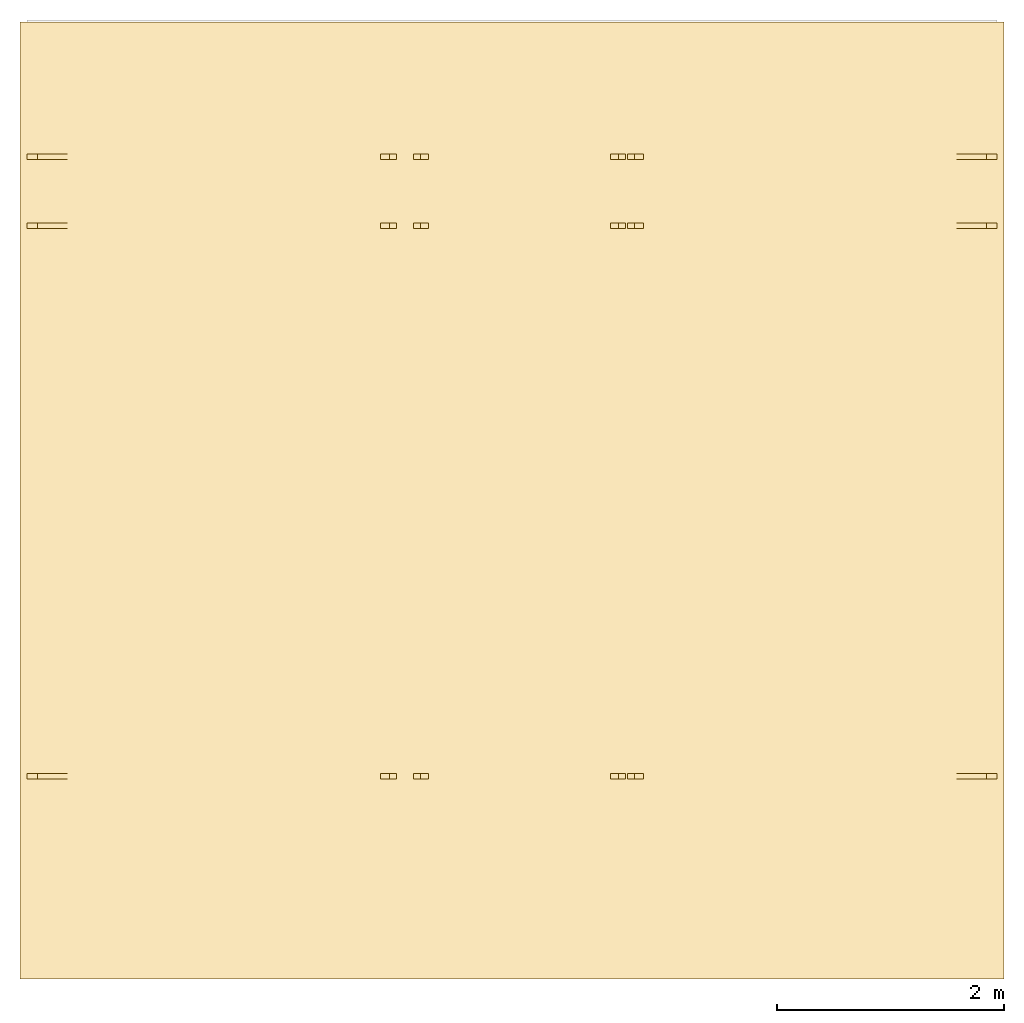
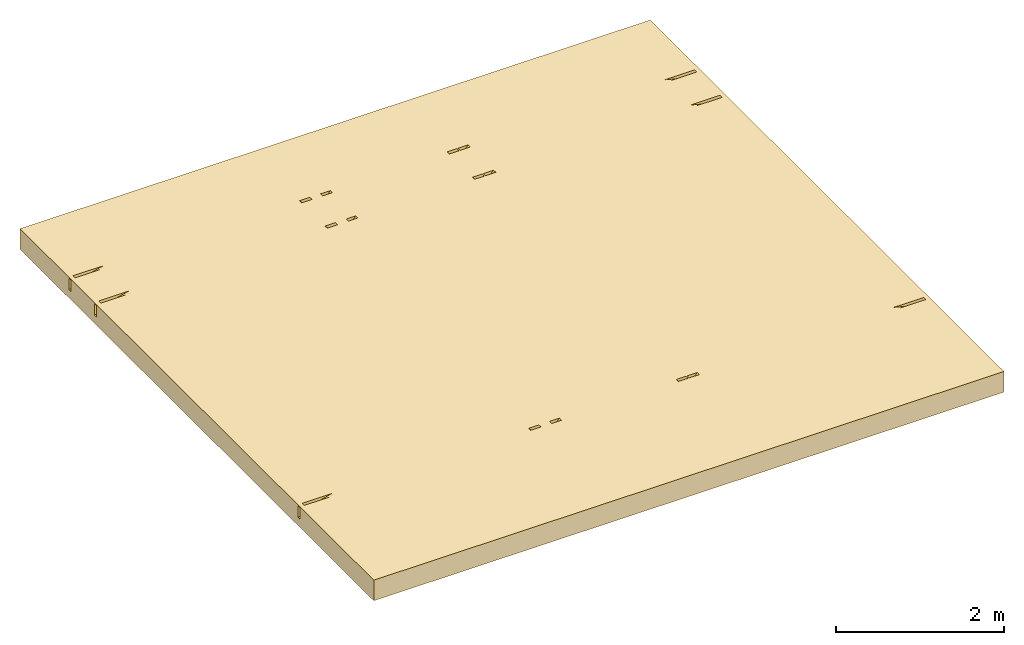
# One storey, part 2 of 2: 1 covering.
"""IFC2X3 building model written with IfcOpenShell, lengths in metres."""

from ifc_helpers import new_model, entity, si_unit, converted_unit, derived_unit, direction, frame, origin, place, context, subcontext, project, spatial, faceted_brep, material, layer, layer_set, layer_usage, type_object, element, save


model = new_model("IFC2X3")

# Units and contexts
model_context = context("Model", 3, precision=1e-05, world=origin(), true_north=direction((6.123031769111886e-17, 1.0)))
body_context = subcontext(model_context, "Body", "Model", "MODEL_VIEW")
ifc_project = project(units=[si_unit("LENGTHUNIT", "METRE"), si_unit("AREAUNIT", "SQUARE_METRE"), si_unit("VOLUMEUNIT", "CUBIC_METRE"), converted_unit("PLANEANGLEUNIT", "DEGREE", entity("IfcRatioMeasure", 0.017453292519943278), si_unit("PLANEANGLEUNIT", "RADIAN"), dimensions=[0, 0, 0, 0, 0, 0, 0]), si_unit("MASSUNIT", "GRAM", prefix="KILO"), derived_unit("MASSDENSITYUNIT", [(si_unit("MASSUNIT", "GRAM", prefix="KILO"), 1), (si_unit("LENGTHUNIT", "METRE"), -3)]), derived_unit("IONCONCENTRATIONUNIT", [(si_unit("MASSUNIT", "GRAM", prefix="KILO"), 1), (si_unit("LENGTHUNIT", "METRE"), -3)]), derived_unit("MOMENTOFINERTIAUNIT", [(si_unit("LENGTHUNIT", "METRE"), 4)]), si_unit("TIMEUNIT", "SECOND"), si_unit("FREQUENCYUNIT", "HERTZ"), si_unit("THERMODYNAMICTEMPERATUREUNIT", "DEGREE_CELSIUS"), derived_unit("THERMALTRANSMITTANCEUNIT", [(si_unit("MASSUNIT", "GRAM", prefix="KILO"), 1), (si_unit("THERMODYNAMICTEMPERATUREUNIT", "KELVIN"), -1), (si_unit("TIMEUNIT", "SECOND"), -3)]), derived_unit("THERMALCONDUCTANCEUNIT", [(si_unit("MASSUNIT", "GRAM", prefix="KILO"), 1), (si_unit("THERMODYNAMICTEMPERATUREUNIT", "KELVIN"), -1), (si_unit("TIMEUNIT", "SECOND"), -3), (si_unit("LENGTHUNIT", "METRE"), 1)]), derived_unit("VOLUMETRICFLOWRATEUNIT", [(si_unit("LENGTHUNIT", "METRE"), 3), (si_unit("TIMEUNIT", "SECOND"), -1)]), derived_unit("MASSFLOWRATEUNIT", [(si_unit("MASSUNIT", "GRAM", prefix="KILO"), 1), (si_unit("TIMEUNIT", "SECOND"), -1)]), derived_unit("ROTATIONALFREQUENCYUNIT", [(si_unit("TIMEUNIT", "SECOND"), -1)]), si_unit("ELECTRICCURRENTUNIT", "AMPERE"), si_unit("ELECTRICVOLTAGEUNIT", "VOLT"), si_unit("POWERUNIT", "WATT"), si_unit("FORCEUNIT", "NEWTON", prefix="KILO"), si_unit("ILLUMINANCEUNIT", "LUX"), si_unit("LUMINOUSFLUXUNIT", "LUMEN"), si_unit("LUMINOUSINTENSITYUNIT", "CANDELA"), derived_unit("USERDEFINED", [(si_unit("MASSUNIT", "GRAM", prefix="KILO"), -1), (si_unit("LENGTHUNIT", "METRE"), -2), (si_unit("TIMEUNIT", "SECOND"), 3), (si_unit("LUMINOUSFLUXUNIT", "LUMEN"), 1)]), derived_unit("USERDEFINED", [(si_unit("MASSUNIT", "GRAM", prefix="KILO"), 1), (si_unit("TIMEUNIT", "SECOND"), -3), (si_unit("LENGTHUNIT", "METRE"), 3), (si_unit("ELECTRICCURRENTUNIT", "AMPERE"), -2)]), derived_unit("SOUNDPOWERUNIT", [(si_unit("MASSUNIT", "GRAM", prefix="KILO"), 1), (si_unit("TIMEUNIT", "SECOND"), -3), (si_unit("LENGTHUNIT", "METRE"), 2)]), derived_unit("SOUNDPRESSUREUNIT", [(si_unit("MASSUNIT", "GRAM", prefix="KILO"), 1), (si_unit("LENGTHUNIT", "METRE"), -1), (si_unit("TIMEUNIT", "SECOND"), -2)]), derived_unit("LINEARVELOCITYUNIT", [(si_unit("LENGTHUNIT", "METRE"), 1), (si_unit("TIMEUNIT", "SECOND"), -1)]), si_unit("PRESSUREUNIT", "PASCAL"), derived_unit("USERDEFINED", [(si_unit("MASSUNIT", "GRAM", prefix="KILO"), 1), (si_unit("LENGTHUNIT", "METRE"), -2), (si_unit("TIMEUNIT", "SECOND"), -2)]), derived_unit("LINEARFORCEUNIT", [(si_unit("MASSUNIT", "GRAM", prefix="KILO"), 1), (si_unit("TIMEUNIT", "SECOND"), -2)]), derived_unit("PLANARFORCEUNIT", [(si_unit("MASSUNIT", "GRAM", prefix="KILO"), 1), (si_unit("LENGTHUNIT", "METRE"), -1), (si_unit("TIMEUNIT", "SECOND"), -2)]), derived_unit("SPECIFICHEATCAPACITYUNIT", [(si_unit("THERMODYNAMICTEMPERATUREUNIT", "KELVIN"), -1), (si_unit("LENGTHUNIT", "METRE"), 2), (si_unit("TIMEUNIT", "SECOND"), -2)]), derived_unit("HEATINGVALUEUNIT", [(si_unit("LENGTHUNIT", "METRE"), 2), (si_unit("TIMEUNIT", "SECOND"), -2)]), derived_unit("VAPORPERMEABILITYUNIT", [(si_unit("LENGTHUNIT", "METRE"), -1), (si_unit("TIMEUNIT", "SECOND"), 1)]), derived_unit("DYNAMICVISCOSITYUNIT", [(si_unit("MASSUNIT", "GRAM", prefix="KILO"), 1), (si_unit("TIMEUNIT", "SECOND"), -1), (si_unit("LENGTHUNIT", "METRE"), -1)]), derived_unit("THERMALEXPANSIONCOEFFICIENTUNIT", [(si_unit("THERMODYNAMICTEMPERATUREUNIT", "KELVIN"), -1)]), derived_unit("MODULUSOFELASTICITYUNIT", [(si_unit("MASSUNIT", "GRAM", prefix="KILO"), 1), (si_unit("LENGTHUNIT", "METRE"), -1), (si_unit("TIMEUNIT", "SECOND"), -2)]), derived_unit("ISOTHERMALMOISTURECAPACITYUNIT", [(si_unit("LENGTHUNIT", "METRE"), 3), (si_unit("MASSUNIT", "GRAM", prefix="KILO"), -1)]), derived_unit("MOISTUREDIFFUSIVITYUNIT", [(si_unit("TIMEUNIT", "SECOND"), -1), (si_unit("LENGTHUNIT", "METRE"), 2)])], contexts=[model_context])

# Site, building, storey
site_placement = place(None, frame((1.2553507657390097, -0.6266432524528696, -1.0397761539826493), z_axis=(0.0, 0.0, 1.0), x_axis=(-1.0, 0.0, 0.0)))
site = spatial("IfcSite", under=ifc_project, at=site_placement, Name="Default", CompositionType="ELEMENT")
building_placement = place(site_placement, origin())
building = spatial("IfcBuilding", under=site, at=building_placement, Name="MAISON D'HABITATION", CompositionType="ELEMENT")
storey_placement = place(building_placement, frame((0.0, 0.0, 3.5397761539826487)))
storey = spatial("IfcBuildingStorey", under=building, at=storey_placement, Name="Niveau plafond ↓", CompositionType="ELEMENT", Elevation=3.5397761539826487)

# Covering
ifc_material = material(Name="Isolation Comble")
ifc_layer = layer(ifc_material, 0.29999999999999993)
ifc_layer_set = layer_set([ifc_layer], Name="Plafond composé:isolation 300mm")
ifc_layer_usage = layer_usage(ifc_layer_set, "AXIS3", "POSITIVE", 0.0)
covering_type = type_object("IfcCoveringType", Name="Plafond composé:isolation 300mm", PredefinedType="CEILING")
covering_placement = place(storey_placement, frame((-4.619866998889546, -5.363816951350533, 0.020000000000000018)))
element("IfcCovering", 1, at=covering_placement, inside=storey, type_object=covering_type, material=ifc_layer_usage, Name="Plafond composé:isolation 300mm", ObjectType="Plafond composé:isolation 300mm", PredefinedType="CEILING", context=body_context, shape_type="Brep", body=[
    faceted_brep([(8.679999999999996, 8.440000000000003, 0.30000000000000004), (0.0, 8.440000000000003, 0.30000000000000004), (0.0, 0.0, 0.30000000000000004), (8.679999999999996, 0.0, 0.30000000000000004), (8.207886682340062, 1.8214285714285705, 0.30000000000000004), (8.620089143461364, 1.8214285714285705, 0.30000000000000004), (8.620089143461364, 1.7714285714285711, 0.30000000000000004), (8.207886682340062, 1.7714285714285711, 0.30000000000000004), (0.47211331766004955, 1.771428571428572, 0.30000000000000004), (0.059910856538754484, 1.7714285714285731, 0.30000000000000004), (0.05991085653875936, 1.8214285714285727, 0.30000000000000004), (0.4721133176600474, 1.8214285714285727, 0.30000000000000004), (8.207886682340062, 1.214285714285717, 0.30000000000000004), (8.620089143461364, 1.214285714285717, 0.30000000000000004), (8.620089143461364, 1.1642857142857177, 0.30000000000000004), (8.207886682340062, 1.1642857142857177, 0.30000000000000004), (0.47211331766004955, 1.1642857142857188, 0.30000000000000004), (0.059910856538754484, 1.1642857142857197, 0.30000000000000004), (0.05991085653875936, 1.2142857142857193, 0.30000000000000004), (0.4721133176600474, 1.2142857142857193, 0.30000000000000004), (8.207886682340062, 6.678571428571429, 0.30000000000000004), (8.620089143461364, 6.678571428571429, 0.30000000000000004), (8.620089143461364, 6.628571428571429, 0.30000000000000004), (8.207886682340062, 6.628571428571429, 0.30000000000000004), (5.360000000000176, 1.8214285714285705, 0.30000000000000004), (5.501421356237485, 1.8214285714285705, 0.30000000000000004), (5.501421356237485, 1.7714285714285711, 0.30000000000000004), (5.360000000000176, 1.7714285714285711, 0.30000000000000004), (3.337002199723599, 1.8214285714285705, 0.30000000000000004), (3.469324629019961, 1.8214285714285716, 0.30000000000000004), (3.4693246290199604, 1.7714285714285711, 0.30000000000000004), (3.337002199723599, 1.771428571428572, 0.30000000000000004), (5.07835294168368, 1.8214285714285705, 0.30000000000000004), (5.210675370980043, 1.8214285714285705, 0.30000000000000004), (5.210675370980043, 1.7714285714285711, 0.30000000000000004), (5.07835294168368, 1.7714285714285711, 0.30000000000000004), (3.1785786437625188, 1.8214285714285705, 0.30000000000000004), (3.3199999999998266, 1.8214285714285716, 0.30000000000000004), (3.3199999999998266, 1.7714285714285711, 0.30000000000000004), (3.1785786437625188, 1.7714285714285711, 0.30000000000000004), (5.360000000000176, 1.214285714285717, 0.30000000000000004), (5.501421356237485, 1.214285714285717, 0.30000000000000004), (5.501421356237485, 1.1642857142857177, 0.30000000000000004), (5.360000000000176, 1.1642857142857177, 0.30000000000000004), (3.337002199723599, 1.214285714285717, 0.30000000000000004), (3.469324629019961, 1.2142857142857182, 0.30000000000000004), (3.4693246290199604, 1.1642857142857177, 0.30000000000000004), (3.337002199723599, 1.1642857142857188, 0.30000000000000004), (5.07835294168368, 1.214285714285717, 0.30000000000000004), (5.210675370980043, 1.214285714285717, 0.30000000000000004), (5.210675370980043, 1.1642857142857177, 0.30000000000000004), (5.07835294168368, 1.1642857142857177, 0.30000000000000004), (3.1785786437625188, 1.214285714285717, 0.30000000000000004), (3.3199999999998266, 1.2142857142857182, 0.30000000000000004), (3.3199999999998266, 1.1642857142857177, 0.30000000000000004), (3.1785786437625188, 1.1642857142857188, 0.30000000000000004), (0.05991085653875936, 6.67857142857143, 0.30000000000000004), (0.4721133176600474, 6.67857142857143, 0.30000000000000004), (0.47211331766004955, 6.62857142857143, 0.30000000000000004), (0.059910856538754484, 6.62857142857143, 0.30000000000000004), (5.360000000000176, 6.678571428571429, 0.30000000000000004), (5.501421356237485, 6.678571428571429, 0.30000000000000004), (5.501421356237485, 6.628571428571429, 0.30000000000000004), (5.360000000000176, 6.628571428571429, 0.30000000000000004), (3.337002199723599, 6.678571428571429, 0.30000000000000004), (3.469324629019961, 6.678571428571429, 0.30000000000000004), (3.4693246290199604, 6.628571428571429, 0.30000000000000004), (3.337002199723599, 6.628571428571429, 0.30000000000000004), (5.07835294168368, 6.678571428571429, 0.30000000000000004), (5.210675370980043, 6.678571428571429, 0.30000000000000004), (5.210675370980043, 6.628571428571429, 0.30000000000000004), (5.07835294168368, 6.628571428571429, 0.30000000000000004), (3.1785786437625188, 6.678571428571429, 0.30000000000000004), (3.3199999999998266, 6.678571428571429, 0.30000000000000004), (3.3199999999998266, 6.628571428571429, 0.30000000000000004), (3.1785786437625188, 6.628571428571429, 0.30000000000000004), (0.0, 8.440000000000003, 0.0), (8.679999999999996, 8.440000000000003, 0.0), (8.679999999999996, 0.0, 0.0), (8.599999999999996, 0.0, 0.0), (0.07999999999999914, 0.0, 0.0), (0.0, 0.0, 0.0), (0.0, 1.8214285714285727, 0.11999999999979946), (0.0, 1.8214285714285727, 0.2850181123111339), (0.0, 1.7714285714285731, 0.2850181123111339), (0.0, 1.771428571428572, 0.11999999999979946), (0.0, 1.2142857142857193, 0.11999999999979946), (0.0, 1.2142857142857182, 0.2850181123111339), (0.0, 1.1642857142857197, 0.2850181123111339), (0.0, 1.1642857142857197, 0.11999999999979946), (0.0, 6.67857142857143, 0.11999999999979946), (0.0, 6.67857142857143, 0.2850181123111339), (0.0, 6.62857142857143, 0.2850181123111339), (0.0, 6.62857142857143, 0.11999999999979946), (8.679999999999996, 1.8214285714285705, 0.28501811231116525), (8.679999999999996, 1.8214285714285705, 0.11999999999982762), (8.679999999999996, 1.7714285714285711, 0.11999999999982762), (8.679999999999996, 1.7714285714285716, 0.2850181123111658), (8.679999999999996, 1.214285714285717, 0.28501811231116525), (8.679999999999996, 1.214285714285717, 0.11999999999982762), (8.679999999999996, 1.1642857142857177, 0.11999999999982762), (8.679999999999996, 1.1642857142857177, 0.2850181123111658), (8.679999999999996, 6.678571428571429, 0.28501811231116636), (8.679999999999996, 6.678571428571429, 0.11999999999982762), (8.679999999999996, 6.628571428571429, 0.11999999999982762), (8.679999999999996, 6.628571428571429, 0.2850181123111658), (8.527797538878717, 1.8214285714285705, 0.21999999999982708), (5.421421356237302, 1.821428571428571, 0.21999999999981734), (5.279999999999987, 1.821428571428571, 0.2199999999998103), (5.147677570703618, 1.821428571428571, 0.21999999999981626), (3.4000000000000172, 1.8214285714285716, 0.2199999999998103), (3.3291088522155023, 1.8214285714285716, 0.2908911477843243), (3.2585786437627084, 1.8214285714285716, 0.2199999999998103), (0.15220246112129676, 1.821428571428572, 0.21999999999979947), (0.15220246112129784, 1.7714285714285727, 0.21999999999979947), (3.2585786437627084, 1.771428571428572, 0.2199999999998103), (3.3291088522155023, 1.771428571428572, 0.2908911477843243), (3.4000000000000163, 1.771428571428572, 0.2199999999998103), (5.147677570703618, 1.7714285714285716, 0.2199999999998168), (5.279999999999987, 1.7714285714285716, 0.2199999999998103), (5.421421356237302, 1.7714285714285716, 0.21999999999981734), (8.527797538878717, 1.7714285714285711, 0.21999999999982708), (8.527797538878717, 1.214285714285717, 0.21999999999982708), (5.421421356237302, 1.2142857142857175, 0.21999999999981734), (5.279999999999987, 1.2142857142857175, 0.2199999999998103), (5.147677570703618, 1.2142857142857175, 0.21999999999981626), (3.4000000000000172, 1.2142857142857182, 0.2199999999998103), (3.3291088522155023, 1.2142857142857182, 0.2908911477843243), (3.2585786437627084, 1.2142857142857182, 0.2199999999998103), (0.15220246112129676, 1.2142857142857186, 0.21999999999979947), (0.15220246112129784, 1.1642857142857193, 0.21999999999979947), (3.2585786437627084, 1.1642857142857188, 0.2199999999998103), (3.3291088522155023, 1.1642857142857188, 0.2908911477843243), (3.4000000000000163, 1.1642857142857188, 0.2199999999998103), (5.147677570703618, 1.1642857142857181, 0.2199999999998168), (5.279999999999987, 1.1642857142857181, 0.2199999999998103), (5.421421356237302, 1.1642857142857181, 0.21999999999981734), (8.527797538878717, 1.1642857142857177, 0.21999999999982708), (8.527797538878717, 6.678571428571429, 0.21999999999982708), (5.421421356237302, 6.678571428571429, 0.21999999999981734), (5.279999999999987, 6.678571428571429, 0.2199999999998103), (5.147677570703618, 6.678571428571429, 0.21999999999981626), (3.4000000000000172, 6.678571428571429, 0.2199999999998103), (3.3291088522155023, 6.678571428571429, 0.2908911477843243), (3.2585786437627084, 6.678571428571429, 0.2199999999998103), (0.15220246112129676, 6.67857142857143, 0.21999999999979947), (0.15220246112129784, 6.62857142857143, 0.21999999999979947), (3.2585786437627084, 6.628571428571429, 0.2199999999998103), (3.3291088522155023, 6.628571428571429, 0.2908911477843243), (3.4000000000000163, 6.628571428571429, 0.2199999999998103), (5.147677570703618, 6.628571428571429, 0.2199999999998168), (5.279999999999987, 6.628571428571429, 0.2199999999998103), (5.421421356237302, 6.628571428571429, 0.21999999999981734), (8.527797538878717, 6.628571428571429, 0.21999999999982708)], [[[0, 1, 2, 3], [4, 5, 6, 7], [8, 9, 10, 11], [12, 13, 14, 15], [16, 17, 18, 19], [20, 21, 22, 23], [24, 25, 26, 27], [28, 29, 30, 31], [32, 33, 34, 35], [36, 37, 38, 39], [40, 41, 42, 43], [44, 45, 46, 47], [48, 49, 50, 51], [52, 53, 54, 55], [56, 57, 58, 59], [60, 61, 62, 63], [64, 65, 66, 67], [68, 69, 70, 71], [72, 73, 74, 75]], [[76, 77, 78, 79, 80, 81]], [[1, 0, 77, 76]], [[2, 1, 76, 81], [82, 83, 84, 85], [86, 87, 88, 89], [90, 91, 92, 93]], [[3, 2, 81, 80, 79, 78]], [[0, 3, 78, 77], [94, 95, 96, 97], [98, 99, 100, 101], [102, 103, 104, 105]], [[82, 95, 94, 5, 4, 106, 107, 25, 24, 108, 33, 32, 109, 110, 29, 28, 111, 37, 36, 112, 113, 11, 10, 83]], [[96, 85, 84, 9, 8, 114, 115, 39, 38, 116, 31, 30, 117, 118, 35, 34, 119, 27, 26, 120, 121, 7, 6, 97]], [[95, 82, 85, 96]], [[86, 99, 98, 13, 12, 122, 123, 41, 40, 124, 49, 48, 125, 126, 45, 44, 127, 53, 52, 128, 129, 19, 18, 87]], [[100, 89, 88, 17, 16, 130, 131, 55, 54, 132, 47, 46, 133, 134, 51, 50, 135, 43, 42, 136, 137, 15, 14, 101]], [[99, 86, 89, 100]], [[138, 139, 61, 60, 140, 69, 68, 141, 142, 65, 64, 143, 73, 72, 144, 145, 57, 56, 91, 90, 103, 102, 21, 20]], [[146, 147, 75, 74, 148, 67, 66, 149, 150, 71, 70, 151, 63, 62, 152, 153, 23, 22, 105, 104, 93, 92, 59, 58]], [[103, 90, 93, 104]], [[113, 112, 115, 114]], [[115, 112, 36, 39]], [[107, 120, 26, 25]], [[107, 106, 121, 120]], [[110, 109, 118, 117]], [[118, 109, 32, 35]], [[110, 117, 30, 29]], [[111, 116, 38, 37]], [[116, 111, 28, 31]], [[119, 108, 24, 27]], [[108, 119, 34, 33]], [[83, 10, 9, 84]], [[5, 94, 97, 6]], [[121, 106, 4, 7]], [[113, 114, 8, 11]], [[129, 128, 131, 130]], [[131, 128, 52, 55]], [[123, 136, 42, 41]], [[123, 122, 137, 136]], [[126, 125, 134, 133]], [[134, 125, 48, 51]], [[126, 133, 46, 45]], [[127, 132, 54, 53]], [[132, 127, 44, 47]], [[135, 124, 40, 43]], [[124, 135, 50, 49]], [[87, 18, 17, 88]], [[13, 98, 101, 14]], [[137, 122, 12, 15]], [[129, 130, 16, 19]], [[145, 144, 147, 146]], [[147, 144, 72, 75]], [[139, 152, 62, 61]], [[139, 138, 153, 152]], [[142, 141, 150, 149]], [[150, 141, 68, 71]], [[142, 149, 66, 65]], [[143, 148, 74, 73]], [[148, 143, 64, 67]], [[151, 140, 60, 63]], [[140, 151, 70, 69]], [[91, 56, 59, 92]], [[21, 102, 105, 22]], [[153, 138, 20, 23]], [[145, 146, 58, 57]]]),
])

save(model, "model.ifc")
